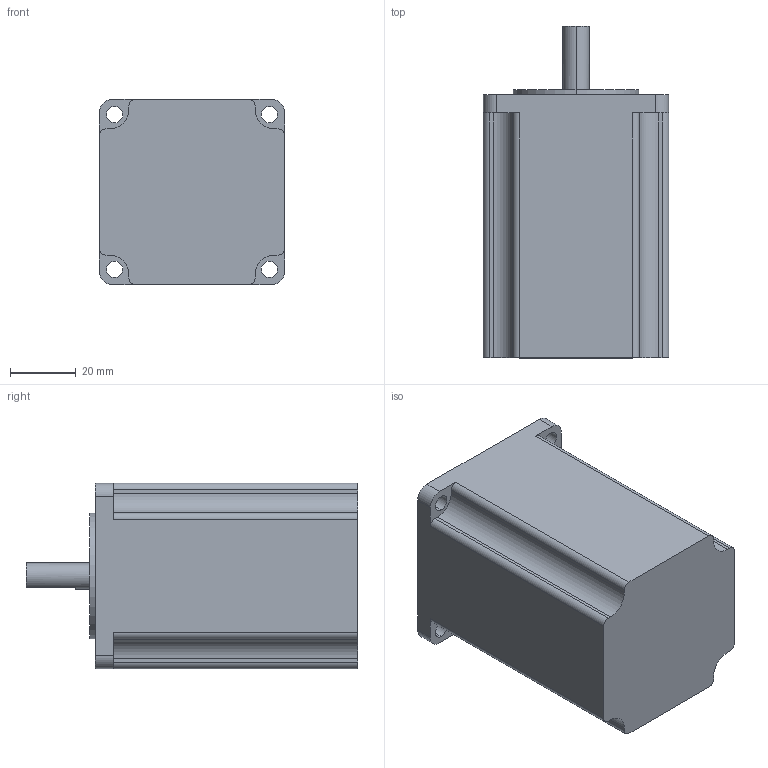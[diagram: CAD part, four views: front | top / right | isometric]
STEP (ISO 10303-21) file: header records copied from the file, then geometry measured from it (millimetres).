
FILE_DESCRIPTION (( 'STEP AP203' ), '1' );
FILE_NAME ('2S57Q-2280.STEP', '2015-05-18T03:10:58', ( 'IT毞諾' ), ( 'iTianKong.com' ), 'SwSTEP 2.0', 'SolidWorks 2008', '' );
FILE_SCHEMA (( 'CONFIG_CONTROL_DESIGN' ));
Length unit declared in the file: millimetre
Products named in the file (1): 2S57Q-2280
Bounding box: 56.4 x 101 x 56.4 mm (x, y, z)
Volume: 234401.6 mm3; surface area: 23930.7 mm2
Topology: 1 solids, 1 shells, 50 faces, 138 edges, 92 vertices
Faces by surface type: cylinder 28, plane 22
Entity records: 1713 total; most frequent: DIRECTION 298, CARTESIAN_POINT 281, ORIENTED_EDGE 276, EDGE_CURVE 138, AXIS2_PLACEMENT_3D 109, VERTEX_POINT 92, VECTOR 80, LINE 80
